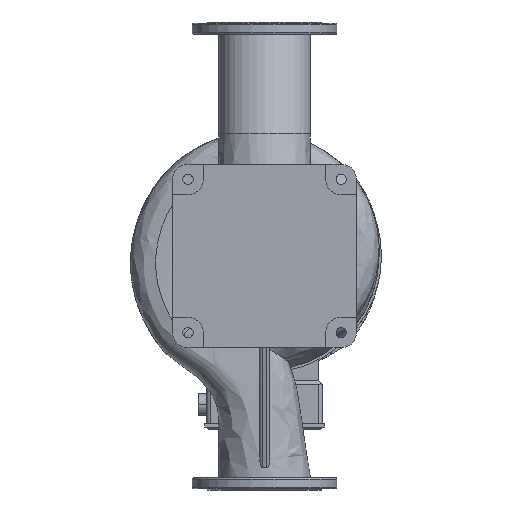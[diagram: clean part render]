
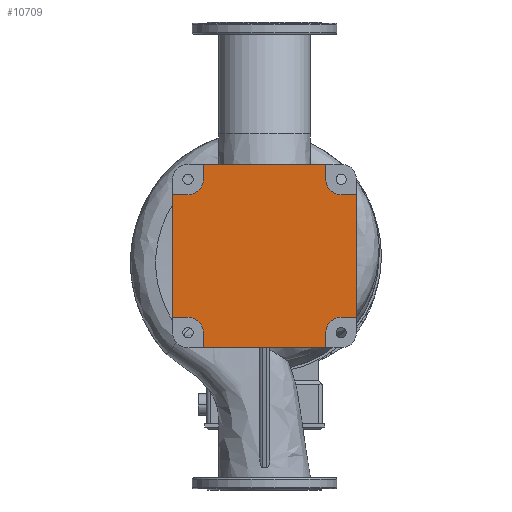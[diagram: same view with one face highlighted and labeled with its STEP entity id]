
A CAD part, front view. The second image highlights one B-rep face of the part: STEP entity #10709.
In plain terms, the highlighted planar face has unit normal (0, -1, 0).
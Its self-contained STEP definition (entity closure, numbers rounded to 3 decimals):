
#73 = EDGE_CURVE ( 'NONE', #22870, #34220, #20178, .T. ) ;
#472 = VECTOR ( 'NONE', #33431, 1000. ) ;
#560 = EDGE_CURVE ( 'NONE', #19019, #22719, #8487, .T. ) ;
#1148 = CARTESIAN_POINT ( 'NONE',  ( -144., -265., -180. ) ) ;
#1167 = CARTESIAN_POINT ( 'NONE',  ( 144., -265., -216. ) ) ;
#1483 = VECTOR ( 'NONE', #4558, 1000. ) ;
#2179 = DIRECTION ( 'NONE',  ( -1., 0., 0. ) ) ;
#2363 = AXIS2_PLACEMENT_3D ( 'NONE', #9881, #23163, #23329 ) ;
#2540 = CARTESIAN_POINT ( 'NONE',  ( -144., -265., -180. ) ) ;
#3153 = VERTEX_POINT ( 'NONE', #20662 ) ;
#3173 = AXIS2_PLACEMENT_3D ( 'NONE', #9322, #14880, #12537 ) ;
#3283 = EDGE_CURVE ( 'NONE', #11336, #26132, #15306, .T. ) ;
#3443 = CARTESIAN_POINT ( 'NONE',  ( 144., -265., -216. ) ) ;
#4558 = DIRECTION ( 'NONE',  ( 1., 0., 0. ) ) ;
#4796 = CARTESIAN_POINT ( 'NONE',  ( 144., -265., 180. ) ) ;
#4858 = CARTESIAN_POINT ( 'NONE',  ( 180., -265., -144. ) ) ;
#5548 = ORIENTED_EDGE ( 'NONE', *, *, #3283, .T. ) ;
#6040 = CARTESIAN_POINT ( 'NONE',  ( -144., -265., 180. ) ) ;
#6140 = CARTESIAN_POINT ( 'NONE',  ( 144., -265., 216. ) ) ;
#6238 = EDGE_CURVE ( 'NONE', #8473, #8739, #32069, .T. ) ;
#6262 = ORIENTED_EDGE ( 'NONE', *, *, #7999, .T. ) ;
#6749 = VECTOR ( 'NONE', #8824, 1000. ) ;
#6935 = LINE ( 'NONE', #4796, #25828 ) ;
#7407 = EDGE_CURVE ( 'NONE', #25427, #20880, #31419, .T. ) ;
#7450 = DIRECTION ( 'NONE',  ( 0., 0., 1. ) ) ;
#7534 = CARTESIAN_POINT ( 'NONE',  ( 180., -265., 144. ) ) ;
#7711 = LINE ( 'NONE', #4858, #30709 ) ;
#7949 = DIRECTION ( 'NONE',  ( -1., 0., 0. ) ) ;
#7981 = CARTESIAN_POINT ( 'NONE',  ( 144., -265., -180. ) ) ;
#7999 = EDGE_CURVE ( 'NONE', #34220, #11336, #8075, .T. ) ;
#8075 = LINE ( 'NONE', #2540, #16428 ) ;
#8358 = EDGE_CURVE ( 'NONE', #22833, #30636, #10142, .T. ) ;
#8473 = VERTEX_POINT ( 'NONE', #13188 ) ;
#8487 = LINE ( 'NONE', #30328, #35099 ) ;
#8541 = CARTESIAN_POINT ( 'NONE',  ( -180., -265., 144. ) ) ;
#8739 = VERTEX_POINT ( 'NONE', #25127 ) ;
#8822 = EDGE_CURVE ( 'NONE', #26132, #25427, #16714, .T. ) ;
#8824 = DIRECTION ( 'NONE',  ( 0., 0., 1. ) ) ;
#9169 = CARTESIAN_POINT ( 'NONE',  ( 144., -265., -180. ) ) ;
#9322 = CARTESIAN_POINT ( 'NONE',  ( -180., -265., 180. ) ) ;
#9349 = EDGE_CURVE ( 'NONE', #32787, #19019, #6935, .T. ) ;
#9881 = CARTESIAN_POINT ( 'NONE',  ( -180., -265., -180. ) ) ;
#10142 = LINE ( 'NONE', #32163, #35306 ) ;
#10187 = ORIENTED_EDGE ( 'NONE', *, *, #6238, .T. ) ;
#10425 = VECTOR ( 'NONE', #33590, 1000. ) ;
#10473 = AXIS2_PLACEMENT_3D ( 'NONE', #25700, #22664, #31425 ) ;
#10709 = ADVANCED_FACE ( 'NONE', ( #33892 ), #20456, .F. ) ;
#11240 = LINE ( 'NONE', #6040, #472 ) ;
#11336 = VERTEX_POINT ( 'NONE', #26502 ) ;
#11744 = VECTOR ( 'NONE', #22675, 1000. ) ;
#12537 = DIRECTION ( 'NONE',  ( 0., 0., 1. ) ) ;
#13188 = CARTESIAN_POINT ( 'NONE',  ( 216., -265., 144. ) ) ;
#13762 = EDGE_CURVE ( 'NONE', #24559, #3153, #17450, .T. ) ;
#14361 = EDGE_CURVE ( 'NONE', #3153, #22833, #30728, .T. ) ;
#14824 = ORIENTED_EDGE ( 'NONE', *, *, #22088, .T. ) ;
#14880 = DIRECTION ( 'NONE',  ( 0., 1., 0. ) ) ;
#15296 = DIRECTION ( 'NONE',  ( 0., 1., 0. ) ) ;
#15306 = LINE ( 'NONE', #1167, #1483 ) ;
#15473 = AXIS2_PLACEMENT_3D ( 'NONE', #23890, #15296, #31767 ) ;
#15542 = CARTESIAN_POINT ( 'NONE',  ( -144., -265., 216. ) ) ;
#15983 = AXIS2_PLACEMENT_3D ( 'NONE', #21068, #31985, #7450 ) ;
#16428 = VECTOR ( 'NONE', #32790, 1000. ) ;
#16540 = EDGE_CURVE ( 'NONE', #20880, #21228, #7711, .T. ) ;
#16714 = LINE ( 'NONE', #9169, #6749 ) ;
#17427 = ORIENTED_EDGE ( 'NONE', *, *, #8358, .T. ) ;
#17436 = LINE ( 'NONE', #27837, #30447 ) ;
#17450 = CIRCLE ( 'NONE', #3173, 36. ) ;
#17856 = CARTESIAN_POINT ( 'NONE',  ( 144., -265., 180. ) ) ;
#17972 = CARTESIAN_POINT ( 'NONE',  ( -144., -265., 180. ) ) ;
#18135 = CARTESIAN_POINT ( 'NONE',  ( 216., -265., -144. ) ) ;
#18200 = EDGE_CURVE ( 'NONE', #22719, #24559, #11240, .T. ) ;
#19019 = VERTEX_POINT ( 'NONE', #6140 ) ;
#19299 = ORIENTED_EDGE ( 'NONE', *, *, #7407, .T. ) ;
#19560 = ORIENTED_EDGE ( 'NONE', *, *, #25656, .T. ) ;
#20178 = CIRCLE ( 'NONE', #10473, 36. ) ;
#20456 = PLANE ( 'NONE',  #2363 ) ;
#20633 = CIRCLE ( 'NONE', #15473, 36. ) ;
#20662 = CARTESIAN_POINT ( 'NONE',  ( -180., -265., 144. ) ) ;
#20880 = VERTEX_POINT ( 'NONE', #30171 ) ;
#21068 = CARTESIAN_POINT ( 'NONE',  ( 180., -265., -180. ) ) ;
#21228 = VERTEX_POINT ( 'NONE', #18135 ) ;
#21861 = DIRECTION ( 'NONE',  ( 1., 0., 0. ) ) ;
#22088 = EDGE_CURVE ( 'NONE', #21228, #8473, #30732, .T. ) ;
#22463 = EDGE_CURVE ( 'NONE', #30636, #22870, #17436, .T. ) ;
#22664 = DIRECTION ( 'NONE',  ( 0., 1., 0. ) ) ;
#22675 = DIRECTION ( 'NONE',  ( -1., 0., 0. ) ) ;
#22719 = VERTEX_POINT ( 'NONE', #15542 ) ;
#22833 = VERTEX_POINT ( 'NONE', #30050 ) ;
#22870 = VERTEX_POINT ( 'NONE', #33415 ) ;
#23163 = DIRECTION ( 'NONE',  ( 0., 1., 0. ) ) ;
#23329 = DIRECTION ( 'NONE',  ( 0., 0., 1. ) ) ;
#23890 = CARTESIAN_POINT ( 'NONE',  ( 180., -265., 180. ) ) ;
#24184 = ORIENTED_EDGE ( 'NONE', *, *, #14361, .T. ) ;
#24559 = VERTEX_POINT ( 'NONE', #17972 ) ;
#24819 = ORIENTED_EDGE ( 'NONE', *, *, #73, .T. ) ;
#24913 = ORIENTED_EDGE ( 'NONE', *, *, #22463, .T. ) ;
#25127 = CARTESIAN_POINT ( 'NONE',  ( 180., -265., 144. ) ) ;
#25146 = DIRECTION ( 'NONE',  ( 1., 0., 0. ) ) ;
#25261 = VECTOR ( 'NONE', #2179, 1000. ) ;
#25427 = VERTEX_POINT ( 'NONE', #7981 ) ;
#25656 = EDGE_CURVE ( 'NONE', #8739, #32787, #20633, .T. ) ;
#25700 = CARTESIAN_POINT ( 'NONE',  ( -180., -265., -180. ) ) ;
#25828 = VECTOR ( 'NONE', #34862, 1000. ) ;
#26132 = VERTEX_POINT ( 'NONE', #3443 ) ;
#26502 = CARTESIAN_POINT ( 'NONE',  ( -144., -265., -216. ) ) ;
#27059 = EDGE_LOOP ( 'NONE', ( #24819, #6262, #5548, #29297, #19299, #29116, #14824, #10187, #19560, #32873, #32546, #29582, #33616, #24184, #17427, #24913 ) ) ;
#27837 = CARTESIAN_POINT ( 'NONE',  ( -180., -265., -144. ) ) ;
#28044 = CARTESIAN_POINT ( 'NONE',  ( 216., -265., 144. ) ) ;
#29116 = ORIENTED_EDGE ( 'NONE', *, *, #16540, .T. ) ;
#29297 = ORIENTED_EDGE ( 'NONE', *, *, #8822, .T. ) ;
#29582 = ORIENTED_EDGE ( 'NONE', *, *, #18200, .T. ) ;
#30050 = CARTESIAN_POINT ( 'NONE',  ( -216., -265., 144. ) ) ;
#30171 = CARTESIAN_POINT ( 'NONE',  ( 180., -265., -144. ) ) ;
#30328 = CARTESIAN_POINT ( 'NONE',  ( -144., -265., 216. ) ) ;
#30447 = VECTOR ( 'NONE', #25146, 1000. ) ;
#30636 = VERTEX_POINT ( 'NONE', #32141 ) ;
#30709 = VECTOR ( 'NONE', #21861, 1000. ) ;
#30728 = LINE ( 'NONE', #8541, #11744 ) ;
#30732 = LINE ( 'NONE', #28044, #10425 ) ;
#31419 = CIRCLE ( 'NONE', #15983, 36. ) ;
#31425 = DIRECTION ( 'NONE',  ( 0., 0., 1. ) ) ;
#31767 = DIRECTION ( 'NONE',  ( 0., 0., 1. ) ) ;
#31985 = DIRECTION ( 'NONE',  ( 0., 1., 0. ) ) ;
#32069 = LINE ( 'NONE', #7534, #25261 ) ;
#32141 = CARTESIAN_POINT ( 'NONE',  ( -216., -265., -144. ) ) ;
#32163 = CARTESIAN_POINT ( 'NONE',  ( -216., -265., -144. ) ) ;
#32546 = ORIENTED_EDGE ( 'NONE', *, *, #560, .T. ) ;
#32787 = VERTEX_POINT ( 'NONE', #17856 ) ;
#32790 = DIRECTION ( 'NONE',  ( 0., 0., -1. ) ) ;
#32873 = ORIENTED_EDGE ( 'NONE', *, *, #9349, .T. ) ;
#33415 = CARTESIAN_POINT ( 'NONE',  ( -180., -265., -144. ) ) ;
#33431 = DIRECTION ( 'NONE',  ( 0., 0., -1. ) ) ;
#33590 = DIRECTION ( 'NONE',  ( 0., 0., 1. ) ) ;
#33616 = ORIENTED_EDGE ( 'NONE', *, *, #13762, .T. ) ;
#33892 = FACE_OUTER_BOUND ( 'NONE', #27059, .T. ) ;
#34220 = VERTEX_POINT ( 'NONE', #1148 ) ;
#34854 = DIRECTION ( 'NONE',  ( 0., 0., -1. ) ) ;
#34862 = DIRECTION ( 'NONE',  ( 0., 0., 1. ) ) ;
#35099 = VECTOR ( 'NONE', #7949, 1000. ) ;
#35306 = VECTOR ( 'NONE', #34854, 1000. ) ;
